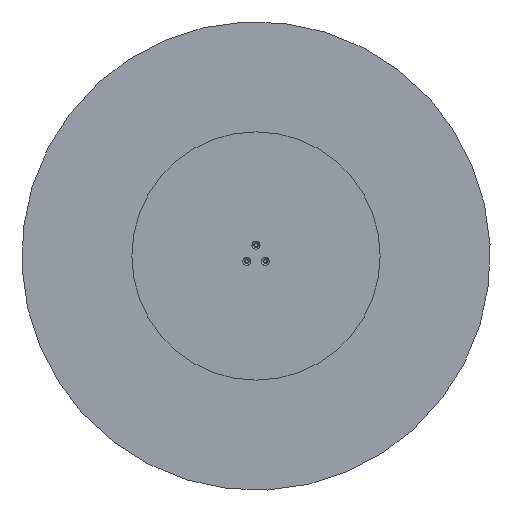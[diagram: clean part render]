
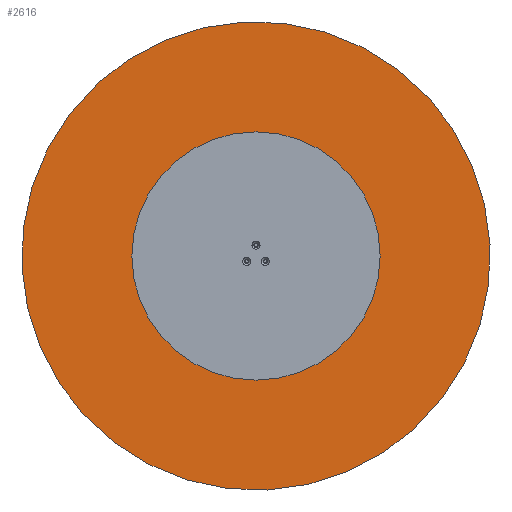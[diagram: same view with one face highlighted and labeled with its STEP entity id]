
A CAD part, front view. The second image highlights one B-rep face of the part: STEP entity #2616.
In plain terms, the highlighted planar face has unit normal (0, -1, 0).
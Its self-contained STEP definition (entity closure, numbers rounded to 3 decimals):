
#128 = CARTESIAN_POINT ( 'NONE',  ( 0., 0., 0. ) ) ;
#330 = DIRECTION ( 'NONE',  ( 0., 0., -1. ) ) ;
#592 = DIRECTION ( 'NONE',  ( 0., 0., -1. ) ) ;
#881 = DIRECTION ( 'NONE',  ( 0., -1., 0. ) ) ;
#1041 = DIRECTION ( 'NONE',  ( 0., 0., -1. ) ) ;
#1132 = CARTESIAN_POINT ( 'NONE',  ( 0., 0., 500. ) ) ;
#1275 = AXIS2_PLACEMENT_3D ( 'NONE', #128, #1340, #1041 ) ;
#1286 = DIRECTION ( 'NONE',  ( 0., -1., 0. ) ) ;
#1340 = DIRECTION ( 'NONE',  ( 0., -1., 0. ) ) ;
#1394 = ORIENTED_EDGE ( 'NONE', *, *, #2414, .T. ) ;
#1463 = VERTEX_POINT ( 'NONE', #2968 ) ;
#1520 = AXIS2_PLACEMENT_3D ( 'NONE', #1799, #881, #592 ) ;
#1553 = CARTESIAN_POINT ( 'NONE',  ( 0., 0., 0. ) ) ;
#1572 = FACE_OUTER_BOUND ( 'NONE', #2028, .T. ) ;
#1799 = CARTESIAN_POINT ( 'NONE',  ( 0., 0., 0. ) ) ;
#2028 = EDGE_LOOP ( 'NONE', ( #3273, #1394 ) ) ;
#2031 = CIRCLE ( 'NONE', #1275, 500. ) ;
#2127 = PLANE ( 'NONE',  #2655 ) ;
#2414 = EDGE_CURVE ( 'NONE', #3820, #1463, #3724, .T. ) ;
#2616 = ADVANCED_FACE ( 'NONE', ( #1572 ), #2127, .T. ) ;
#2655 = AXIS2_PLACEMENT_3D ( 'NONE', #1553, #1286, #330 ) ;
#2808 = EDGE_CURVE ( 'NONE', #1463, #3820, #2031, .T. ) ;
#2968 = CARTESIAN_POINT ( 'NONE',  ( 0., 0., -500. ) ) ;
#3273 = ORIENTED_EDGE ( 'NONE', *, *, #2808, .T. ) ;
#3724 = CIRCLE ( 'NONE', #1520, 500. ) ;
#3820 = VERTEX_POINT ( 'NONE', #1132 ) ;
